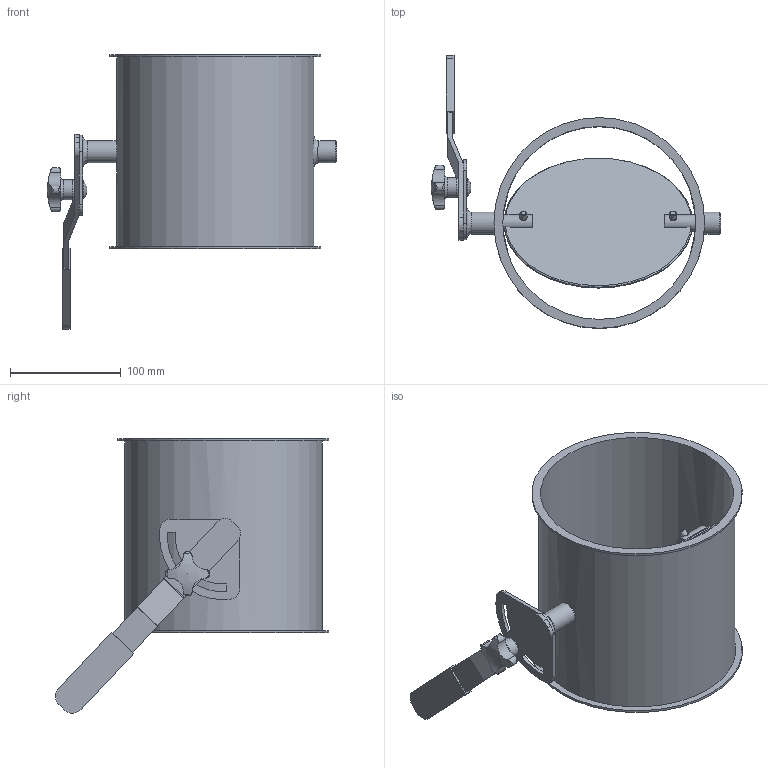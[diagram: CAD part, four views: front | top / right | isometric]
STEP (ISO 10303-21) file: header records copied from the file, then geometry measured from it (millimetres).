
FILE_DESCRIPTION((''),'2;1');
FILE_NAME('U:\Wolfgang\Marcel-3D\fertig\Kapitel 8\1721075.stp','2011-05-03T15:01:43',('TK1'),(''),'Autodesk Inventor 2010','Autodesk Inventor 2010','');
FILE_SCHEMA(('AUTOMOTIVE_DESIGN { 1 0 10303 214 1 1 1 1 }'));
Length unit declared in the file: millimetre
Products named in the file (9): 1721075; Bolzen D15; Griff D15; Umstellsegment D15; DIN 6912 M6 x 16; ganter_din_6335-ku-40-m8-k; Scheibe170; DIN 603 M6 x 25; 1721075-1
Assembly tree (9 placements, depth 2):
  1721075
    Bolzen D15
    Griff D15
    Umstellsegment D15
    DIN 6912 M6 x 16  x2
    ganter_din_6335-ku-40-m8-k
    Scheibe170
    DIN 603 M6 x 25
    1721075-1
Bounding box: 261 x 246.5 x 247.45 mm (x, y, z)
Volume: 354004.5 mm3; surface area: 295790.2 mm2
Topology: 9 solids, 9 shells, 164 faces, 399 edges, 264 vertices
Faces by surface type: plane 75, cylinder 54, cone 16, torus 9, bspline 8, sphere 2
Full cylindrical faces by diameter (mm): 3 x2, 6 x7, 6.4 x1, 7 x1, 10 x4, 13 x1, 14 x2, 15 x4, 16.55 x1, 18 x1, 20 x3, 170 x1, 174 x1, 178 x1, 190 x2
Entity records: 5297 total; most frequent: CARTESIAN_POINT 1816, DIRECTION 686, ORIENTED_EDGE 592, EDGE_CURVE 296, AXIS2_PLACEMENT_3D 290, EDGE_LOOP 229, VERTEX_POINT 221, FACE_OUTER_BOUND 149
